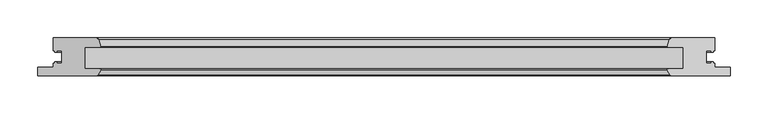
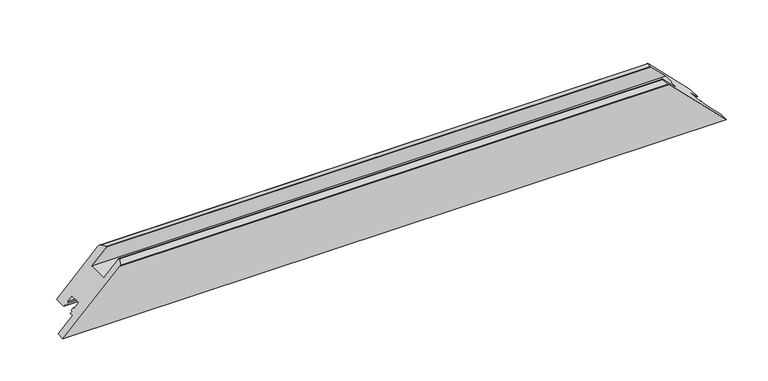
"""IFC4 building model written with IfcOpenShell, lengths in millimetres: proxy geometry, Weiku - Montante - Folha 02.2.01.017 : Weiku - Montante - Folha 02.2.01.017."""

from ifc_helpers import new_model, si_unit, frame, origin, place, context, project, spatial, ellipse_curve, source, transform, mapped, element, save
from ifc_brep_helpers import plane_surface, cylinder_surface, advanced_brep


def generic_models_6373dc5b(model_context):
    return source(origin(), model_context, "Body", "AdvancedBrep", [
        advanced_brep(
        [(-436.0, 50.0, 20.0), (-378.9997332, 50.0, 77.0002668), (378.9997332, 50.0, 77.0002668), (436.0, 50.0, 20.0), (-456.0, 0.0, 0.0), (456.0, 0.0, 0.0), (377.9872264, 0.0, 78.0127736), (-377.9872264, 0.0, 78.0127736), (-436.0, 33.1, 20.0), (-433.8, 33.1, 22.2), (-433.8, 31.1, 22.2), (-431.0, 31.1, 25.0), (-431.0, 33.1, 25.0), (-424.5, 33.1, 31.5), (-424.5, 16.9, 31.5), (-431.0, 16.9, 25.0), (-431.0, 18.9, 25.0), (-433.8, 18.9, 22.2), (-433.8, 16.9, 22.2), (-436.0, 16.9, 20.0), (-436.0, 11.5, 20.0), (-456.0, 11.5, 0.0), (-377.0932657, 0.5518546, 78.9067343), (-373.5512796, 7.617411, 82.4487204), (-374.7134285, 9.5, 81.2865715), (-394.5, 9.5, 61.5), (-394.5, 37.5, 61.5), (-374.0, 37.5, 82.0), (-373.5170371, 38.1294095, 82.4829629), (-376.1019557, 47.7764571, 79.8980443), (376.1019557, 47.7764571, 79.8980443), (373.5170371, 38.1294095, 82.4829629), (374.0, 37.5, 82.0), (394.5, 37.5, 61.5), (394.5, 9.5, 61.5), (374.7134285, 9.5, 81.2865715), (373.5512796, 7.617411, 82.4487204), (377.0932657, 0.5518546, 78.9067343), (456.0, 11.5, 0.0), (436.0, 11.5, 20.0), (436.0, 16.9, 20.0), (433.8, 16.9, 22.2), (433.8, 18.9, 22.2), (431.0, 18.9, 25.0), (431.0, 16.9, 25.0), (424.5, 16.9, 31.5), (424.5, 33.1, 31.5), (431.0, 33.1, 25.0), (431.0, 31.1, 25.0), (433.8, 31.1, 22.2), (433.8, 33.1, 22.2), (436.0, 33.1, 20.0)],
        [
            (0, 1),
            (1, 2),
            (2, 3),
            (3, 0),
            (4, 5),
            (5, 6),
            (6, 7),
            (7, 4),
            (0, 8),
            (8, 9),
            (9, 10),
            (10, 11),
            (11, 12),
            (12, 13),
            (13, 14),
            (14, 15),
            (15, 16),
            (16, 17),
            (17, 18),
            (18, 19),
            (19, 20),
            (20, 21),
            (21, 4),
            (7, 22, ellipse_curve(frame((-377.9872264, 1.0, 78.0127736), z_axis=(-0.7071067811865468, 0.0, 0.7071067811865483), x_axis=(-0.7071067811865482, 0.0, -0.7071067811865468)), 1.4142136, 1.0)),
            (22, 23),
            (23, 24, ellipse_curve(frame((-374.7134285, 8.2, 81.2865715), z_axis=(-0.7071067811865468, 0.0, 0.7071067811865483), x_axis=(-0.7071067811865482, 0.0, -0.7071067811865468)), 1.8384776, 1.3)),
            (24, 25),
            (25, 26),
            (26, 27),
            (27, 28, ellipse_curve(frame((-374.0, 38.0, 82.0), z_axis=(-0.7071067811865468, 0.0, 0.7071067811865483), x_axis=(-0.7071067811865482, 0.0, -0.7071067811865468)), 0.7071068, 0.5)),
            (28, 29),
            (29, 1, ellipse_curve(frame((-378.9997332, 47.0, 77.0002668), z_axis=(-0.7071067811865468, 0.0, 0.7071067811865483), x_axis=(-0.7071067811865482, 0.0, -0.7071067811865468)), 4.2426407, 3.0)),
            (2, 30, ellipse_curve(frame((378.9997332, 47.0, 77.0002668), z_axis=(0.707106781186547, 0.0, 0.7071067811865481), x_axis=(-0.7071067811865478, 0.0, 0.707106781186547)), 4.2426407, 3.0)),
            (30, 31),
            (31, 32, ellipse_curve(frame((374.0, 38.0, 82.0), z_axis=(0.707106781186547, 0.0, 0.7071067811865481), x_axis=(-0.7071067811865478, 0.0, 0.707106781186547)), 0.7071068, 0.5)),
            (32, 33),
            (33, 34),
            (34, 35),
            (35, 36, ellipse_curve(frame((374.7134285, 8.2, 81.2865715), z_axis=(0.707106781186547, 0.0, 0.7071067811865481), x_axis=(-0.7071067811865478, 0.0, 0.707106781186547)), 1.8384776, 1.3)),
            (36, 37),
            (37, 6, ellipse_curve(frame((377.9872264, 1.0, 78.0127736), z_axis=(0.707106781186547, 0.0, 0.7071067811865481), x_axis=(-0.7071067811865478, 0.0, 0.707106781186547)), 1.4142136, 1.0)),
            (5, 38),
            (38, 39),
            (39, 40),
            (40, 41),
            (41, 42),
            (42, 43),
            (43, 44),
            (44, 45),
            (45, 46),
            (46, 47),
            (47, 48),
            (48, 49),
            (49, 50),
            (50, 51),
            (51, 3),
            (37, 22),
            (36, 23),
            (35, 24),
            (34, 25),
            (33, 26),
            (32, 27),
            (31, 28),
            (30, 29),
            (51, 8),
            (50, 9),
            (49, 10),
            (48, 11),
            (47, 12),
            (46, 13),
            (45, 14),
            (44, 15),
            (43, 16),
            (42, 17),
            (41, 18),
            (40, 19),
            (39, 20),
            (38, 21),
        ],
        [
            plane_surface(frame((-456.0, 50.0, 77.0002668), z_axis=(0.0, 1.0, 0.0), x_axis=(1.0, 0.0, 0.0))),
            plane_surface(frame((-456.0, 0.0, 0.0), z_axis=(0.0, -1.0, 0.0), x_axis=(1.0, 0.0, 0.0))),
            plane_surface(frame((-484.2842712, 0.0, -28.2842712), z_axis=(-0.7071067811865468, 0.0, 0.7071067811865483), x_axis=(0.0, 1.0, 0.0))),
            plane_surface(frame((366.0, 0.0, 90.0), z_axis=(0.707106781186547, 0.0, 0.7071067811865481), x_axis=(0.0, 1.0, 0.0))),
            cylinder_surface(frame((-456.0, 1.0, 78.0127736), z_axis=(-1.0, 0.0, 0.0), x_axis=(0.0, 1.0, 0.0)), 1.0),
            plane_surface(frame((-456.0, 0.5518546, 78.9067343), z_axis=(0.0, -0.4481453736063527, 0.8939606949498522), x_axis=(1.0, 0.0, 0.0))),
            cylinder_surface(frame((-456.0, 8.2, 81.2865715), z_axis=(-1.0, 0.0, 0.0), x_axis=(0.0, 1.0, 0.0)), 1.3),
            plane_surface(frame((-456.0, 9.5, 81.2865715), z_axis=(0.0, 1.0, 0.0), x_axis=(1.0, 0.0, 0.0))),
            plane_surface(frame((-456.0, 9.5, 61.5), z_axis=(0.0, 0.0, 1.0), x_axis=(1.0, 0.0, 0.0))),
            plane_surface(frame((-456.0, 37.5, 61.5), z_axis=(0.0, -1.0, 0.0), x_axis=(1.0, 0.0, 0.0))),
            cylinder_surface(frame((-456.0, 38.0, 82.0), z_axis=(-1.0, 0.0, 0.0), x_axis=(0.0, 1.0, 0.0)), 0.5),
            plane_surface(frame((-456.0, 38.1294095, 82.4829629), z_axis=(0.0, 0.2588190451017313, 0.9659258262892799), x_axis=(1.0, 0.0, 0.0))),
            cylinder_surface(frame((-456.0, 47.0, 77.0002668), z_axis=(-1.0, 0.0, 0.0), x_axis=(0.0, 1.0, 0.0)), 3.0),
            plane_surface(frame((-456.0, 50.0, 20.0), z_axis=(0.0, 0.0, -1.0), x_axis=(1.0, 0.0, 0.0))),
            plane_surface(frame((-456.0, 33.1, 20.0), z_axis=(0.0, -1.0, 0.0), x_axis=(1.0, 0.0, 0.0))),
            plane_surface(frame((-456.0, 33.1, 22.2), z_axis=(0.0, 0.0, -1.0), x_axis=(1.0, 0.0, 0.0))),
            plane_surface(frame((-456.0, 31.1, 22.2), z_axis=(0.0, -1.0, 0.0), x_axis=(1.0, 0.0, 0.0))),
            plane_surface(frame((-456.0, 31.1, 25.0), z_axis=(0.0, 0.0, 1.0), x_axis=(1.0, 0.0, 0.0))),
            plane_surface(frame((-456.0, 33.1, 25.0), z_axis=(0.0, -1.0, 0.0), x_axis=(1.0, 0.0, 0.0))),
            plane_surface(frame((-456.0, 33.1, 31.5), z_axis=(0.0, 0.0, -1.0), x_axis=(1.0, 0.0, 0.0))),
            plane_surface(frame((-456.0, 16.9, 31.5), z_axis=(0.0, 1.0, 0.0), x_axis=(1.0, 0.0, 0.0))),
            plane_surface(frame((-456.0, 16.9, 25.0), z_axis=(0.0, 0.0, 1.0), x_axis=(1.0, 0.0, 0.0))),
            plane_surface(frame((-456.0, 18.9, 25.0), z_axis=(0.0, 1.0, 0.0), x_axis=(1.0, 0.0, 0.0))),
            plane_surface(frame((-456.0, 18.9, 22.2), z_axis=(0.0, 0.0, -1.0), x_axis=(1.0, 0.0, 0.0))),
            plane_surface(frame((-456.0, 16.9, 22.2), z_axis=(0.0, 1.0, 0.0), x_axis=(1.0, 0.0, 0.0))),
            plane_surface(frame((-456.0, 16.9, 20.0), z_axis=(0.0, 0.0, -1.0), x_axis=(1.0, 0.0, 0.0))),
            plane_surface(frame((-456.0, 11.5, 20.0), z_axis=(0.0, 1.0, 0.0), x_axis=(1.0, 0.0, 0.0))),
            plane_surface(frame((-456.0, 11.5, 0.0), z_axis=(0.0, 0.0, -1.0), x_axis=(1.0, 0.0, 0.0))),
        ],
        [
            (0, [[1, 2, 3, 4]]),
            (1, [[5, 6, 7, 8]]),
            (2, [[-1, 9, 10, 11, 12, 13, 14, 15, 16, 17, 18, 19, 20, 21, 22, 23, -8, 24, 25, 26, 27, 28, 29, 30, 31, 32]]),
            (3, [[-3, 33, 34, 35, 36, 37, 38, 39, 40, 41, -6, 42, 43, 44, 45, 46, 47, 48, 49, 50, 51, 52, 53, 54, 55, 56]]),
            (4, [[-24, -7, -41, 57]]),
            (5, [[-25, -57, -40, 58]]),
            (6, [[-26, -58, -39, 59]]),
            (7, [[-27, -59, -38, 60]]),
            (8, [[-28, -60, -37, 61]]),
            (9, [[-29, -61, -36, 62]]),
            (10, [[-30, -62, -35, 63]]),
            (11, [[-31, -63, -34, 64]]),
            (12, [[-32, -64, -33, -2]]),
            (13, [[-9, -4, -56, 65]]),
            (14, [[-10, -65, -55, 66]]),
            (15, [[-11, -66, -54, 67]]),
            (16, [[-12, -67, -53, 68]]),
            (17, [[-13, -68, -52, 69]]),
            (18, [[-14, -69, -51, 70]]),
            (19, [[-15, -70, -50, 71]]),
            (20, [[-16, -71, -49, 72]]),
            (21, [[-17, -72, -48, 73]]),
            (22, [[-18, -73, -47, 74]]),
            (23, [[-19, -74, -46, 75]]),
            (24, [[-20, -75, -45, 76]]),
            (25, [[-21, -76, -44, 77]]),
            (26, [[78, -22, -77, -43]]),
            (27, [[-5, -23, -78, -42]]),
        ],
    ),
    ])


if __name__ == "__main__":
    model = new_model("IFC4")
    model_context = context("Model", 3, world=origin())
    ifc_project = project(units=[si_unit("LENGTHUNIT", "METRE", prefix="MILLI")], contexts=[model_context])
    site = spatial("IfcSite", under=ifc_project)
    building = spatial("IfcBuilding", under=site)
    placement = place(None, origin())
    generic_models_shape = generic_models_6373dc5b(model_context)
    element("IfcBuildingElementProxy", 1, Name="Weiku - Montante - Folha 02.2.01.017 : Weiku - Montante - Folha 02.2.01.017", ObjectType="Weiku - Montante - Folha 02.2.01.017 : Weiku - Montante - Folha 02.2.01.017", at=placement, inside=building, context=model_context, shape_type="MappedRepresentation", body=[
        mapped(generic_models_shape, transform((0.0, 0.0, 0.0), x_axis=(1.0, 0.0, 0.0), y_axis=(0.0, 1.0, 0.0), z_axis=(0.0, 0.0, 1.0))),
    ])
    save(model, "model.ifc")
